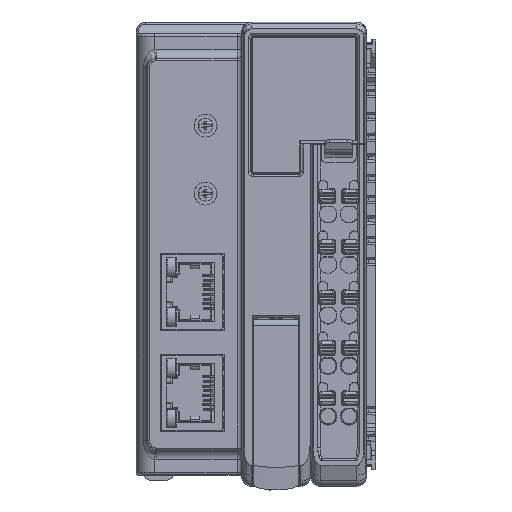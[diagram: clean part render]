
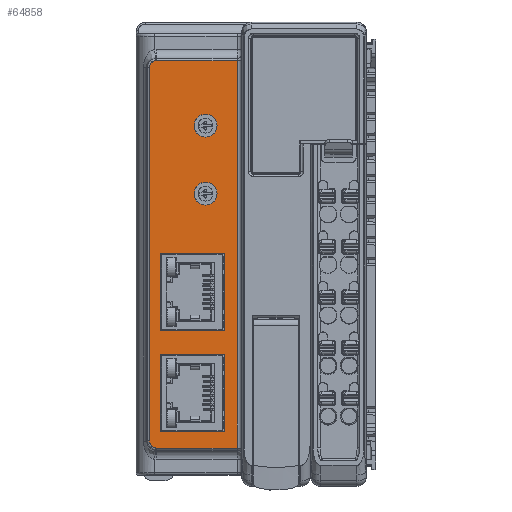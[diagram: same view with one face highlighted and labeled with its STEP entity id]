
A CAD part, top view. The second image highlights one B-rep face of the part: STEP entity #64858.
In plain terms, the highlighted planar face has unit normal (0, 0, 1).
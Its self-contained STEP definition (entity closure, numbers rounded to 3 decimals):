
#7932=DIRECTION('',(0.,-1.,0.));
#7933=VECTOR('',#7932,84.303);
#7934=CARTESIAN_POINT('',(-30.2,92.652,40.5));
#7935=LINE('',#7934,#7933);
#7936=DIRECTION('',(1.,0.,0.));
#7937=VECTOR('',#7936,17.604);
#7938=CARTESIAN_POINT('',(-47.804,8.348,40.5));
#7939=LINE('',#7938,#7937);
#7940=CARTESIAN_POINT('',(-47.957,8.356,40.5));
#7941=CARTESIAN_POINT('',(-47.94,8.354,40.5));
#7942=CARTESIAN_POINT('',(-47.906,8.351,40.5));
#7943=CARTESIAN_POINT('',(-47.855,8.349,40.5));
#7944=CARTESIAN_POINT('',(-47.821,8.348,40.5));
#7945=CARTESIAN_POINT('',(-47.804,8.348,40.5));
#7947=CARTESIAN_POINT('',(-48.747,8.705,40.5));
#7948=CARTESIAN_POINT('',(-48.675,8.648,40.5));
#7949=CARTESIAN_POINT('',(-48.531,8.55,40.5));
#7950=CARTESIAN_POINT('',(-48.327,8.447,40.5));
#7951=CARTESIAN_POINT('',(-48.137,8.383,40.5));
#7952=CARTESIAN_POINT('',(-48.016,8.362,40.5));
#7953=CARTESIAN_POINT('',(-47.957,8.356,40.5));
#7955=CARTESIAN_POINT('',(-49.317,9.882,40.5));
#7956=CARTESIAN_POINT('',(-49.317,9.807,40.5));
#7957=CARTESIAN_POINT('',(-49.306,9.658,40.5));
#7958=CARTESIAN_POINT('',(-49.256,9.437,40.5));
#7959=CARTESIAN_POINT('',(-49.172,9.225,40.5));
#7960=CARTESIAN_POINT('',(-49.058,9.029,40.5));
#7961=CARTESIAN_POINT('',(-48.915,8.852,40.5));
#7962=CARTESIAN_POINT('',(-48.806,8.752,40.5));
#7963=CARTESIAN_POINT('',(-48.747,8.705,40.5));
#7965=DIRECTION('',(0.,-1.,0.));
#7966=VECTOR('',#7965,81.236);
#7967=CARTESIAN_POINT('',(-49.317,91.118,40.5));
#7968=LINE('',#7967,#7966);
#7969=CARTESIAN_POINT('',(-48.747,92.295,40.5));
#7970=CARTESIAN_POINT('',(-48.806,92.248,40.5));
#7971=CARTESIAN_POINT('',(-48.915,92.148,40.5));
#7972=CARTESIAN_POINT('',(-49.058,91.971,40.5));
#7973=CARTESIAN_POINT('',(-49.172,91.775,40.5));
#7974=CARTESIAN_POINT('',(-49.256,91.563,40.5));
#7975=CARTESIAN_POINT('',(-49.306,91.342,40.5));
#7976=CARTESIAN_POINT('',(-49.317,91.193,40.5));
#7977=CARTESIAN_POINT('',(-49.317,91.118,40.5));
#7979=CARTESIAN_POINT('',(-47.957,92.644,40.5));
#7980=CARTESIAN_POINT('',(-48.016,92.638,40.5));
#7981=CARTESIAN_POINT('',(-48.137,92.617,40.5));
#7982=CARTESIAN_POINT('',(-48.326,92.553,40.5));
#7983=CARTESIAN_POINT('',(-48.531,92.45,40.5));
#7984=CARTESIAN_POINT('',(-48.675,92.352,40.5));
#7985=CARTESIAN_POINT('',(-48.747,92.295,40.5));
#7987=CARTESIAN_POINT('',(-47.804,92.652,40.5));
#7988=CARTESIAN_POINT('',(-47.821,92.652,40.5));
#7989=CARTESIAN_POINT('',(-47.855,92.651,40.5));
#7990=CARTESIAN_POINT('',(-47.906,92.649,40.5));
#7991=CARTESIAN_POINT('',(-47.94,92.646,40.5));
#7992=CARTESIAN_POINT('',(-47.957,92.644,40.5));
#7994=DIRECTION('',(-1.,0.,0.));
#7995=VECTOR('',#7994,17.604);
#7996=CARTESIAN_POINT('',(-30.2,92.652,40.5));
#7997=LINE('',#7996,#7995);
#7998=CARTESIAN_POINT('',(-37.1,78.5,40.5));
#7999=DIRECTION('',(0.,0.,1.));
#8000=DIRECTION('',(1.,0.,0.));
#8001=AXIS2_PLACEMENT_3D('',#7998,#7999,#8000);
#8003=CARTESIAN_POINT('',(-37.1,78.5,40.5));
#8004=DIRECTION('',(0.,0.,1.));
#8005=DIRECTION('',(-1.,0.,0.));
#8006=AXIS2_PLACEMENT_3D('',#8003,#8004,#8005);
#8008=CARTESIAN_POINT('',(-37.1,63.7,40.5));
#8009=DIRECTION('',(0.,0.,1.));
#8010=DIRECTION('',(1.,0.,0.));
#8011=AXIS2_PLACEMENT_3D('',#8008,#8009,#8010);
#8013=CARTESIAN_POINT('',(-37.1,63.7,40.5));
#8014=DIRECTION('',(0.,0.,1.));
#8015=DIRECTION('',(-1.,0.,0.));
#8016=AXIS2_PLACEMENT_3D('',#8013,#8014,#8015);
#8018=DIRECTION('',(-1.,0.,0.));
#8019=VECTOR('',#8018,14.);
#8020=CARTESIAN_POINT('',(-33.,33.9,40.5));
#8021=LINE('',#8020,#8019);
#8022=DIRECTION('',(0.,-1.,0.));
#8023=VECTOR('',#8022,16.8);
#8024=CARTESIAN_POINT('',(-33.,50.7,40.5));
#8025=LINE('',#8024,#8023);
#8026=DIRECTION('',(1.,0.,0.));
#8027=VECTOR('',#8026,14.);
#8028=CARTESIAN_POINT('',(-47.,50.7,40.5));
#8029=LINE('',#8028,#8027);
#8030=DIRECTION('',(0.,1.,0.));
#8031=VECTOR('',#8030,16.8);
#8032=CARTESIAN_POINT('',(-47.,33.9,40.5));
#8033=LINE('',#8032,#8031);
#8034=DIRECTION('',(1.,0.,0.));
#8035=VECTOR('',#8034,14.);
#8036=CARTESIAN_POINT('',(-47.,28.7,40.5));
#8037=LINE('',#8036,#8035);
#8038=DIRECTION('',(0.,1.,0.));
#8039=VECTOR('',#8038,16.8);
#8040=CARTESIAN_POINT('',(-47.,11.9,40.5));
#8041=LINE('',#8040,#8039);
#8042=DIRECTION('',(-1.,0.,0.));
#8043=VECTOR('',#8042,14.);
#8044=CARTESIAN_POINT('',(-33.,11.9,40.5));
#8045=LINE('',#8044,#8043);
#8046=DIRECTION('',(0.,-1.,0.));
#8047=VECTOR('',#8046,16.8);
#8048=CARTESIAN_POINT('',(-33.,28.7,40.5));
#8049=LINE('',#8048,#8047);
#47900=CARTESIAN_POINT('',(-33.,33.9,40.5));
#47901=CARTESIAN_POINT('',(-47.,33.9,40.5));
#47902=VERTEX_POINT('',#47900);
#47903=VERTEX_POINT('',#47901);
#47904=CARTESIAN_POINT('',(-47.,50.7,40.5));
#47905=CARTESIAN_POINT('',(-33.,50.7,40.5));
#47906=VERTEX_POINT('',#47904);
#47907=VERTEX_POINT('',#47905);
#47908=CARTESIAN_POINT('',(-47.,28.7,40.5));
#47909=CARTESIAN_POINT('',(-33.,28.7,40.5));
#47910=VERTEX_POINT('',#47908);
#47911=VERTEX_POINT('',#47909);
#47912=CARTESIAN_POINT('',(-33.,11.9,40.5));
#47913=CARTESIAN_POINT('',(-47.,11.9,40.5));
#47914=VERTEX_POINT('',#47912);
#47915=VERTEX_POINT('',#47913);
#47925=VERTEX_POINT('',#7947);
#47926=VERTEX_POINT('',#7953);
#47929=VERTEX_POINT('',#7955);
#47931=CARTESIAN_POINT('',(-49.317,91.118,40.5));
#47932=VERTEX_POINT('',#47931);
#47935=VERTEX_POINT('',#7969);
#47937=VERTEX_POINT('',#7979);
#47943=CARTESIAN_POINT('',(-47.804,8.348,40.5));
#47945=VERTEX_POINT('',#47943);
#47955=CARTESIAN_POINT('',(-30.2,8.348,40.5));
#47956=VERTEX_POINT('',#47955);
#47957=CARTESIAN_POINT('',(-30.2,92.652,40.5));
#47958=VERTEX_POINT('',#47957);
#47973=CARTESIAN_POINT('',(-47.804,92.652,40.5));
#47974=VERTEX_POINT('',#47973);
#48419=CARTESIAN_POINT('',(-34.6,78.5,40.5));
#48420=CARTESIAN_POINT('',(-39.6,78.5,40.5));
#48421=VERTEX_POINT('',#48419);
#48422=VERTEX_POINT('',#48420);
#48423=CARTESIAN_POINT('',(-34.6,63.7,40.5));
#48424=CARTESIAN_POINT('',(-39.6,63.7,40.5));
#48425=VERTEX_POINT('',#48423);
#48426=VERTEX_POINT('',#48424);
#64800=CARTESIAN_POINT('',(0.,0.,40.5));
#64801=DIRECTION('',(0.,0.,1.));
#64802=DIRECTION('',(1.,0.,0.));
#64803=AXIS2_PLACEMENT_3D('',#64800,#64801,#64802);
#64804=PLANE('',#64803);
#64806=ORIENTED_EDGE('',*,*,#64805,.T.);
#64808=ORIENTED_EDGE('',*,*,#64807,.F.);
#64810=ORIENTED_EDGE('',*,*,#64809,.F.);
#64812=ORIENTED_EDGE('',*,*,#64811,.F.);
#64814=ORIENTED_EDGE('',*,*,#64813,.F.);
#64816=ORIENTED_EDGE('',*,*,#64815,.F.);
#64818=ORIENTED_EDGE('',*,*,#64817,.F.);
#64820=ORIENTED_EDGE('',*,*,#64819,.F.);
#64822=ORIENTED_EDGE('',*,*,#64821,.F.);
#64823=ORIENTED_EDGE('',*,*,#64785,.F.);
#64824=EDGE_LOOP('',(#64806,#64808,#64810,#64812,#64814,#64816,#64818,#64820,
#64822,#64823));
#64825=FACE_OUTER_BOUND('',#64824,.F.);
#64827=ORIENTED_EDGE('',*,*,#64826,.T.);
#64829=ORIENTED_EDGE('',*,*,#64828,.T.);
#64830=EDGE_LOOP('',(#64827,#64829));
#64831=FACE_BOUND('',#64830,.F.);
#64833=ORIENTED_EDGE('',*,*,#64832,.T.);
#64835=ORIENTED_EDGE('',*,*,#64834,.T.);
#64836=EDGE_LOOP('',(#64833,#64835));
#64837=FACE_BOUND('',#64836,.F.);
#64839=ORIENTED_EDGE('',*,*,#64838,.F.);
#64841=ORIENTED_EDGE('',*,*,#64840,.F.);
#64843=ORIENTED_EDGE('',*,*,#64842,.F.);
#64845=ORIENTED_EDGE('',*,*,#64844,.F.);
#64846=EDGE_LOOP('',(#64839,#64841,#64843,#64845));
#64847=FACE_BOUND('',#64846,.F.);
#64849=ORIENTED_EDGE('',*,*,#64848,.F.);
#64851=ORIENTED_EDGE('',*,*,#64850,.F.);
#64853=ORIENTED_EDGE('',*,*,#64852,.F.);
#64855=ORIENTED_EDGE('',*,*,#64854,.F.);
#64856=EDGE_LOOP('',(#64849,#64851,#64853,#64855));
#64857=FACE_BOUND('',#64856,.F.);
#7946=B_SPLINE_CURVE_WITH_KNOTS('',3,(#7940,#7941,#7942,#7943,#7944,#7945),
.UNSPECIFIED.,.F.,.F.,(4,1,1,4),(0.,0.333,0.667,1.),
.UNSPECIFIED.);
#7954=B_SPLINE_CURVE_WITH_KNOTS('',3,(#7947,#7948,#7949,#7950,#7951,#7952,
#7953),.UNSPECIFIED.,.F.,.F.,(4,1,1,1,4),(0.,0.25,0.5,0.75,1.),
.UNSPECIFIED.);
#7964=B_SPLINE_CURVE_WITH_KNOTS('',3,(#7955,#7956,#7957,#7958,#7959,#7960,#7961,
#7962,#7963),.UNSPECIFIED.,.F.,.F.,(4,1,1,1,1,1,4),(0.,0.167,
0.333,0.5,0.667,0.833,1.),
.UNSPECIFIED.);
#7978=B_SPLINE_CURVE_WITH_KNOTS('',3,(#7969,#7970,#7971,#7972,#7973,#7974,#7975,
#7976,#7977),.UNSPECIFIED.,.F.,.F.,(4,1,1,1,1,1,4),(0.,0.167,
0.333,0.5,0.667,0.833,1.),
.UNSPECIFIED.);
#7986=B_SPLINE_CURVE_WITH_KNOTS('',3,(#7979,#7980,#7981,#7982,#7983,#7984,
#7985),.UNSPECIFIED.,.F.,.F.,(4,1,1,1,4),(0.,0.25,0.5,0.75,1.),
.UNSPECIFIED.);
#7993=B_SPLINE_CURVE_WITH_KNOTS('',3,(#7987,#7988,#7989,#7990,#7991,#7992),
.UNSPECIFIED.,.F.,.F.,(4,1,1,4),(0.,0.333,0.667,1.),
.UNSPECIFIED.);
#8002=CIRCLE('',#8001,2.5);
#8007=CIRCLE('',#8006,2.5);
#8012=CIRCLE('',#8011,2.5);
#8017=CIRCLE('',#8016,2.5);
#64785=EDGE_CURVE('',#47958,#47974,#7997,.T.);
#64805=EDGE_CURVE('',#47958,#47956,#7935,.T.);
#64807=EDGE_CURVE('',#47945,#47956,#7939,.T.);
#64809=EDGE_CURVE('',#47926,#47945,#7946,.T.);
#64811=EDGE_CURVE('',#47925,#47926,#7954,.T.);
#64813=EDGE_CURVE('',#47929,#47925,#7964,.T.);
#64815=EDGE_CURVE('',#47932,#47929,#7968,.T.);
#64817=EDGE_CURVE('',#47935,#47932,#7978,.T.);
#64819=EDGE_CURVE('',#47937,#47935,#7986,.T.);
#64821=EDGE_CURVE('',#47974,#47937,#7993,.T.);
#64826=EDGE_CURVE('',#48421,#48422,#8002,.T.);
#64828=EDGE_CURVE('',#48422,#48421,#8007,.T.);
#64832=EDGE_CURVE('',#48425,#48426,#8012,.T.);
#64834=EDGE_CURVE('',#48426,#48425,#8017,.T.);
#64838=EDGE_CURVE('',#47902,#47903,#8021,.T.);
#64840=EDGE_CURVE('',#47907,#47902,#8025,.T.);
#64842=EDGE_CURVE('',#47906,#47907,#8029,.T.);
#64844=EDGE_CURVE('',#47903,#47906,#8033,.T.);
#64848=EDGE_CURVE('',#47910,#47911,#8037,.T.);
#64850=EDGE_CURVE('',#47915,#47910,#8041,.T.);
#64852=EDGE_CURVE('',#47914,#47915,#8045,.T.);
#64854=EDGE_CURVE('',#47911,#47914,#8049,.T.);
#64858=ADVANCED_FACE('',(#64825,#64831,#64837,#64847,#64857),#64804,.T.);
